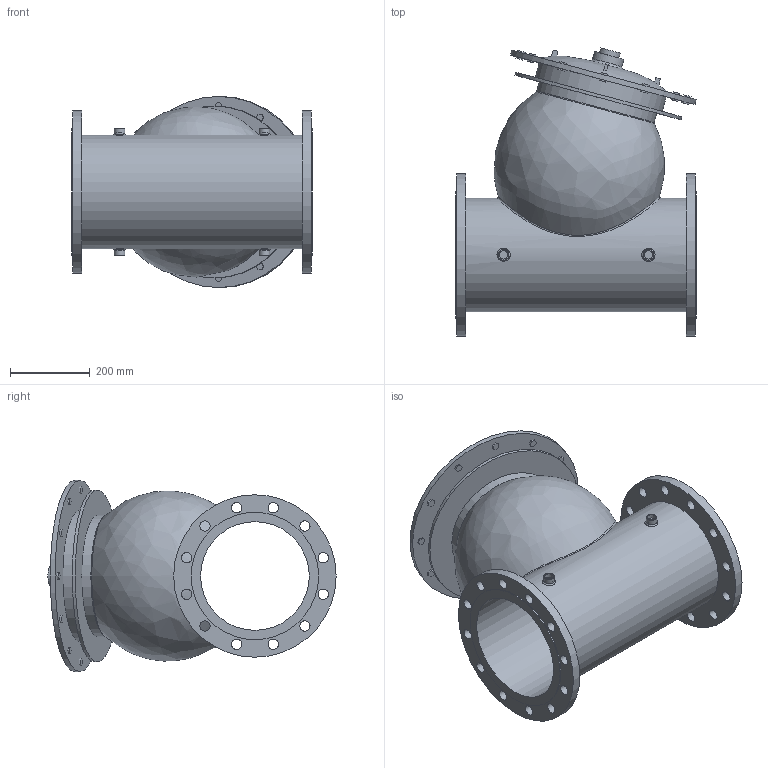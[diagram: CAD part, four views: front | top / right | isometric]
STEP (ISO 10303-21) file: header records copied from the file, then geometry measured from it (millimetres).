
FILE_DESCRIPTION(/* description */ ('VIC FP VALVE PRESSURE RELIEF SERIES 867-7UF (PN16)','CAx-IF Rec.Pracs.---Representation and Presentation of Product Manufacturing Information (PMI)---4.0---2014-10-13'),/* implementation_level */ '2;1');
FILE_NAME(/* name */ 'C:\Series 867-7UF\Series 867-7UF final\pn16\step\Victaulic_FP-Bermad_Valve Pressure Relief_Series 867-7UF (PN16)\Victaulic_FP-Bermad_Valve Pressure Relief_Series 867-7UF (PN16)_10 (250).stp',/* time_stamp */ '2021-09-02T19:17:16+06:00',/* author */ ('kkamble'),/* organization */ ('Victaulic'),/* preprocessor_version */ 'ST-DEVELOPER v17.2',/* originating_system */ 'Autodesk Inventor 2019',/* authorisation */ '');
FILE_SCHEMA (('AP242_MANAGED_MODEL_BASED_3D_ENGINEERING_MIM_LF { 1 0 10303 442 1 1 4 }'));
Length unit declared in the file: inch
Products named in the file (1): 867-7UF-10.0
Bounding box: 605.03 x 723.91 x 480.06 mm (x, y, z)
Volume: 49136616.2 mm3; surface area: 2182026.4 mm2
Topology: 1 solids, 1 shells, 261 faces, 665 edges, 451 vertices
Faces by surface type: plane 208, cylinder 44, bspline 7, torus 2
Full cylindrical faces by diameter (mm): 21.336 x4, 25.999 x24, 26.873 x4, 50.8 x1, 76.2 x1, 273.05 x1, 285.75 x1, 304.8 x1, 319.999 x2, 330.2 x1, 407.924 x2, 431.8 x1, 480.06 x1
Entity records: 9254 total; most frequent: CARTESIAN_POINT 2353, ORIENTED_EDGE 1338, DIRECTION 1290, EDGE_CURVE 669, LINE 512, VECTOR 512, VERTEX_POINT 455, AXIS2_PLACEMENT_3D 389
